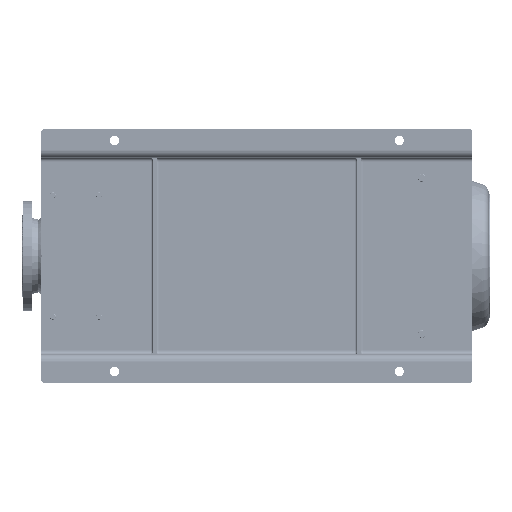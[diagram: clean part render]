
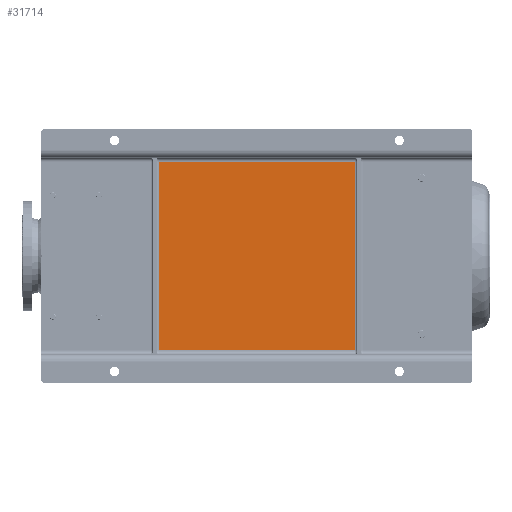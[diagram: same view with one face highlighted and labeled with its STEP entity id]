
A CAD part, front view. The second image highlights one B-rep face of the part: STEP entity #31714.
In plain terms, the highlighted planar face has unit normal (0, -1, 0).
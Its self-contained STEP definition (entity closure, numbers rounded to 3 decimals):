
#559 = EDGE_LOOP ( 'NONE', ( #36164, #15204, #166399, #1081 ) ) ;
#1081 = ORIENTED_EDGE ( 'NONE', *, *, #61214, .T. ) ;
#2096 = EDGE_CURVE ( 'NONE', #82341, #135905, #6480, .T. ) ;
#6480 = LINE ( 'NONE', #171792, #58854 ) ;
#9141 = DIRECTION ( 'NONE',  ( 0., 0., 1. ) ) ;
#15204 = ORIENTED_EDGE ( 'NONE', *, *, #28756, .T. ) ;
#28756 = EDGE_CURVE ( 'NONE', #87535, #82341, #70415, .T. ) ;
#31714 = ADVANCED_FACE ( 'NONE', ( #114458 ), #32677, .T. ) ;
#32677 = PLANE ( 'NONE',  #109838 ) ;
#33559 = DIRECTION ( 'NONE',  ( 0., -1., 0. ) ) ;
#36164 = ORIENTED_EDGE ( 'NONE', *, *, #97205, .T. ) ;
#58854 = VECTOR ( 'NONE', #9141, 1000. ) ;
#61214 = EDGE_CURVE ( 'NONE', #135905, #67964, #148068, .T. ) ;
#64927 = CARTESIAN_POINT ( 'NONE',  ( 85., 65., -305. ) ) ;
#67964 = VERTEX_POINT ( 'NONE', #64927 ) ;
#70415 = LINE ( 'NONE', #111750, #167265 ) ;
#78003 = DIRECTION ( 'NONE',  ( -1., 0., 0. ) ) ;
#78643 = CARTESIAN_POINT ( 'NONE',  ( 575., 65., -815. ) ) ;
#82341 = VERTEX_POINT ( 'NONE', #78643 ) ;
#87535 = VERTEX_POINT ( 'NONE', #164205 ) ;
#88414 = CARTESIAN_POINT ( 'NONE',  ( 75., 65., -1120. ) ) ;
#97205 = EDGE_CURVE ( 'NONE', #67964, #87535, #142205, .T. ) ;
#100017 = CARTESIAN_POINT ( 'NONE',  ( 85., 65., -820. ) ) ;
#102261 = VECTOR ( 'NONE', #78003, 1000. ) ;
#109838 = AXIS2_PLACEMENT_3D ( 'NONE', #88414, #33559, #143200 ) ;
#111750 = CARTESIAN_POINT ( 'NONE',  ( 75., 65., -815. ) ) ;
#114458 = FACE_OUTER_BOUND ( 'NONE', #559, .T. ) ;
#135905 = VERTEX_POINT ( 'NONE', #139569 ) ;
#139569 = CARTESIAN_POINT ( 'NONE',  ( 575., 65., -305. ) ) ;
#142205 = LINE ( 'NONE', #100017, #150664 ) ;
#143200 = DIRECTION ( 'NONE',  ( 0., 0., -1. ) ) ;
#148068 = LINE ( 'NONE', #173269, #102261 ) ;
#150664 = VECTOR ( 'NONE', #170052, 1000. ) ;
#164205 = CARTESIAN_POINT ( 'NONE',  ( 85., 65., -815. ) ) ;
#166399 = ORIENTED_EDGE ( 'NONE', *, *, #2096, .T. ) ;
#166595 = DIRECTION ( 'NONE',  ( 1., 0., 0. ) ) ;
#167265 = VECTOR ( 'NONE', #166595, 1000. ) ;
#170052 = DIRECTION ( 'NONE',  ( 0., 0., -1. ) ) ;
#171792 = CARTESIAN_POINT ( 'NONE',  ( 575., 65., -300. ) ) ;
#173269 = CARTESIAN_POINT ( 'NONE',  ( 75., 65., -305. ) ) ;
